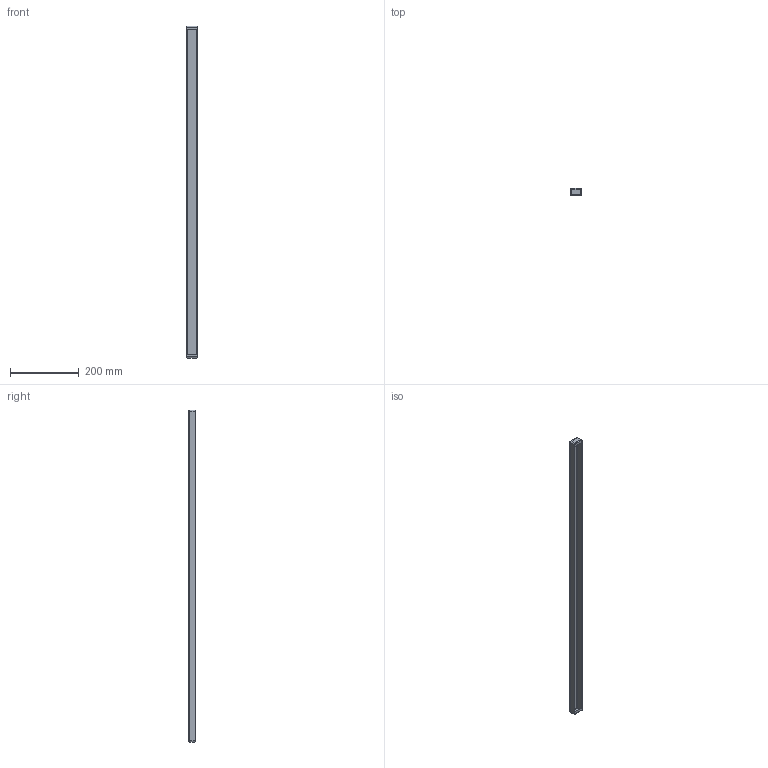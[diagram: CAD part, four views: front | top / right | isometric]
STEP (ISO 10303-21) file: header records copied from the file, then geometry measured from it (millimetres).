
FILE_DESCRIPTION (( 'STEP AP203' ), '1' );
FILE_NAME ('GB 100 R Ïëàíêà çàùèòíàÿ.STEP', '2013-01-09T15:50:00', ( 'System' ), ( '' ), 'SwSTEP 2.0', 'SolidWorks 2012', '' );
FILE_SCHEMA (( 'CONFIG_CONTROL_DESIGN' ));
Length unit declared in the file: millimetre
Products named in the file (1): GB 100 R Ïëàíêà çàùèòíàÿ
Bounding box: 32 x 20 x 964 mm (x, y, z)
Volume: 99039.3 mm3; surface area: 134982.1 mm2
Topology: 1 solids, 1 shells, 43 faces, 96 edges, 48 vertices
Faces by surface type: cylinder 20, plane 15, sphere 8
Entity records: 1167 total; most frequent: CARTESIAN_POINT 204, DIRECTION 192, ORIENTED_EDGE 176, EDGE_CURVE 88, AXIS2_PLACEMENT_3D 68, VECTOR 56, LINE 56, VERTEX_POINT 48
